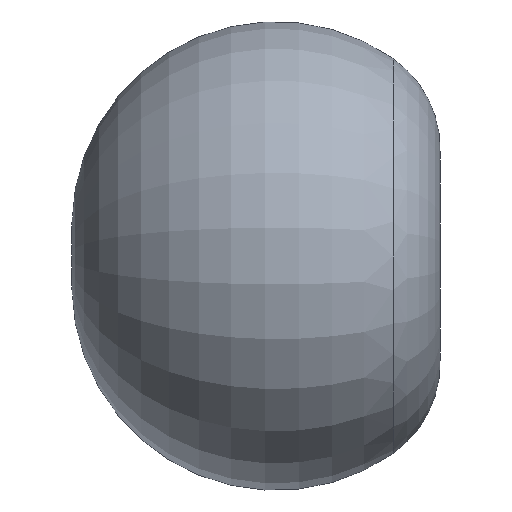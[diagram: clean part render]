
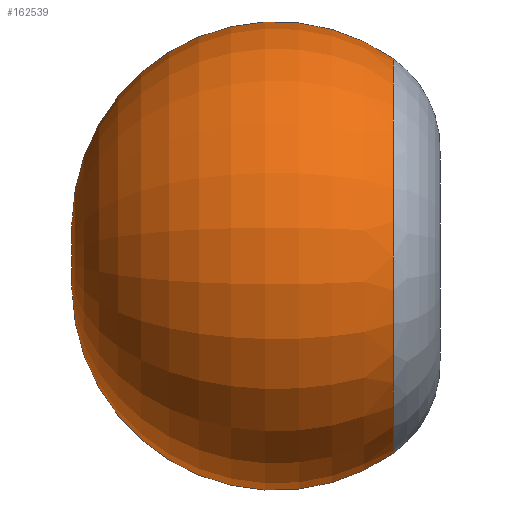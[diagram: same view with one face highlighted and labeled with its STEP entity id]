
A CAD part, left-side view. The second image highlights one B-rep face of the part: STEP entity #162539.
In plain terms, the highlighted toroidal (fillet/blend) face has major radius 400 mm and minor radius 2708 mm.
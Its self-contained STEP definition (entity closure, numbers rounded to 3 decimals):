
#127112 = VERTEX_POINT ( 'NONE', #186445 ) ;
#130270 = VERTEX_POINT ( 'NONE', #187565 ) ;
#130288 = VERTEX_POINT ( 'NONE', #187560 ) ;
#132026 = EDGE_CURVE ( 'NONE', #127112, #130288, #188017, .T. ) ;
#136005 = EDGE_CURVE ( 'NONE', #127112, #130270, #188476, .T. ) ;
#159003 = EDGE_LOOP ( 'NONE', ( #159013, #161789, #161838 ) ) ;
#159013 = ORIENTED_EDGE ( 'NONE', *, *, #132026, .F. ) ;
#161789 = ORIENTED_EDGE ( 'NONE', *, *, #136005, .T. ) ;
#161832 = EDGE_CURVE ( 'NONE', #130288, #130270, #187882, .T. ) ;
#161838 = ORIENTED_EDGE ( 'NONE', *, *, #161832, .F. ) ;
#162539 = ADVANCED_FACE ( 'NONE', ( #191525 ), #191478, .T. ) ;
#186445 = CARTESIAN_POINT ( 'NONE',  ( 0., 3228.298, 0. ) ) ;
#187560 = CARTESIAN_POINT ( 'NONE',  ( 0., -1003.247, 2618.266 ) ) ;
#187565 = CARTESIAN_POINT ( 'NONE',  ( 0., -1003.247, -2618.266 ) ) ;
#187882 = CIRCLE ( 'NONE', #189669, 2618.266 ) ;
#188010 = DIRECTION ( 'NONE',  ( 0., 0., -1. ) ) ;
#188012 = DIRECTION ( 'NONE',  ( 1., 0., 0. ) ) ;
#188013 = CARTESIAN_POINT ( 'NONE',  ( 0., 550., 400. ) ) ;
#188015 = AXIS2_PLACEMENT_3D ( 'NONE', #188013, #188012, #188010 ) ;
#188017 = CIRCLE ( 'NONE', #188015, 2708.003 ) ;
#188470 = DIRECTION ( 'NONE',  ( 0., 0., 1. ) ) ;
#188471 = DIRECTION ( 'NONE',  ( -1., 0., 0. ) ) ;
#188473 = CARTESIAN_POINT ( 'NONE',  ( 0., 550., -400. ) ) ;
#188474 = AXIS2_PLACEMENT_3D ( 'NONE', #188473, #188471, #188470 ) ;
#188476 = CIRCLE ( 'NONE', #188474, 2708.003 ) ;
#189669 = AXIS2_PLACEMENT_3D ( 'NONE', #190253, #190258, #190827 ) ;
#190253 = CARTESIAN_POINT ( 'NONE',  ( 0., -1003.247, 0. ) ) ;
#190258 = DIRECTION ( 'NONE',  ( 0., -1., 0. ) ) ;
#190827 = DIRECTION ( 'NONE',  ( 0., 0., -1. ) ) ;
#191472 = DIRECTION ( 'NONE',  ( 0., 0., -1. ) ) ;
#191474 = DIRECTION ( 'NONE',  ( 0., -1., 0. ) ) ;
#191476 = AXIS2_PLACEMENT_3D ( 'NONE', #191484, #191474, #191472 ) ;
#191478 = TOROIDAL_SURFACE ( 'NONE', #191476, 400., 2708.003 ) ;
#191484 = CARTESIAN_POINT ( 'NONE',  ( 0., 550., 0. ) ) ;
#191525 = FACE_OUTER_BOUND ( 'NONE', #159003, .T. ) ;
